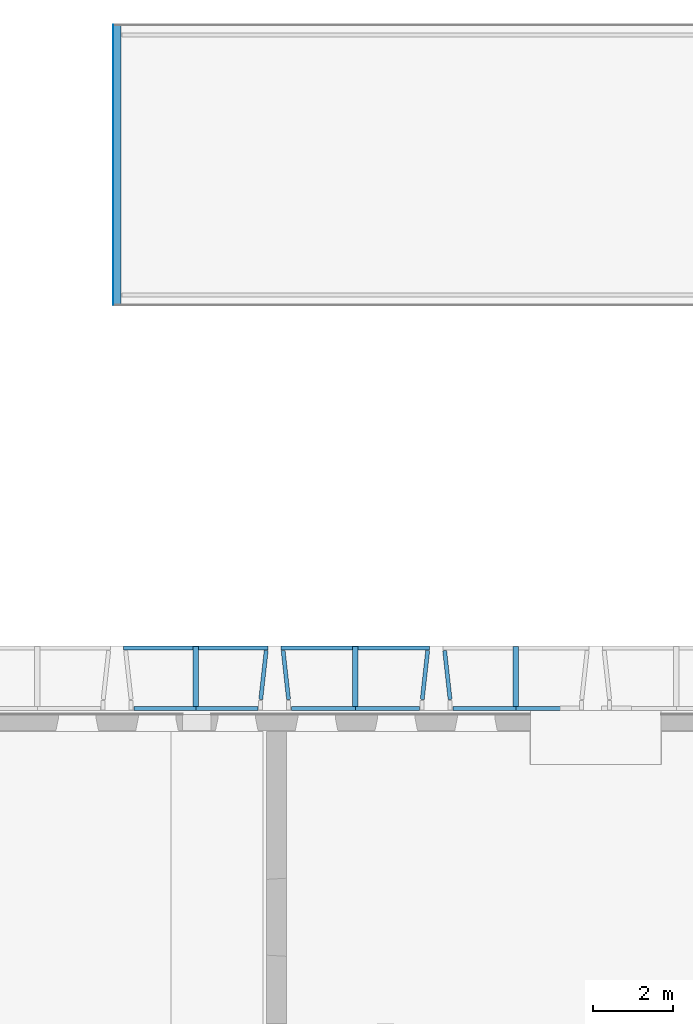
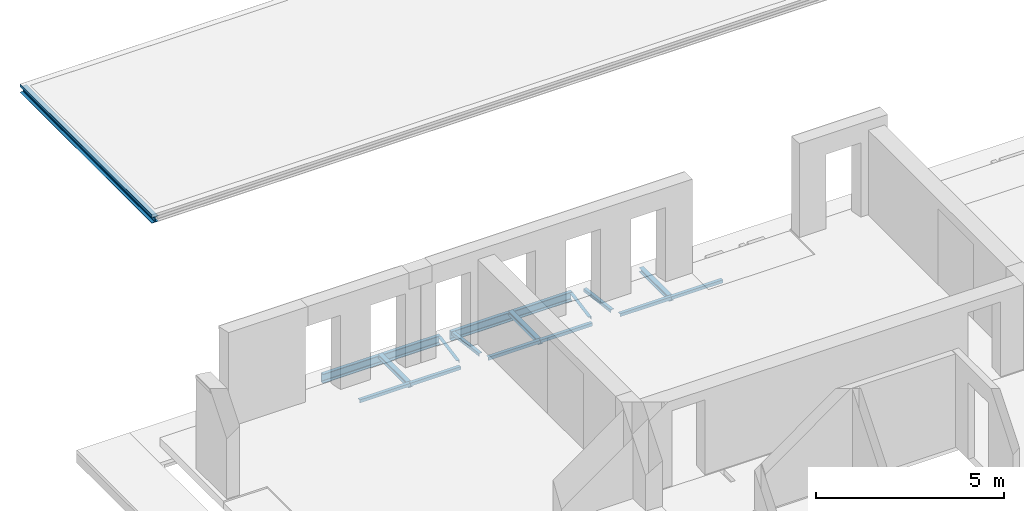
# One storey, part 8 of 27: 17 beams.
"""IFC2X3 building model written with IfcOpenShell, lengths in millimetres."""

import ifcopenshell
import ifcopenshell.guid

model = None  # the IFC model being written
_history = None  # IfcOwnerHistory: only IFC2X3 demands one
_inside = {}  # id of a spatial element -> (the spatial element, [elements in it])
_under = {}  # id of a project, library or spatial element -> (it, [spatial elements below it])
_declared = {}  # id of a project -> (the project, [libraries it declares])
_typed = {}  # id of a type object -> (the type object, [elements of that type])
_made_of = {}  # id of a material, layer set ... -> (it, [elements and type objects made of it])


def new_model(schema):
    """Start an empty IFC model of exactly this schema.

    Asked for "IFC4X3", IfcOpenShell would pick the latest addendum, in which some entities
    have other attributes; the version numbers below select the first issue.
    IFC2X3 requires an IfcOwnerHistory on every rooted entity: one is made here for all.
    """
    global model, _history
    if schema == "IFC4X3":
        model = ifcopenshell.file(schema_version=(4, 3, 0, 0))
    else:
        model = ifcopenshell.file(schema=schema)
    _inside.clear()
    _under.clear()
    _declared.clear()
    _typed.clear()
    _made_of.clear()
    _history = None
    if model.schema == "IFC2X3":
        org = make("IfcOrganization", Name="unknown")
        user = make(
            "IfcPersonAndOrganization",
            ThePerson=make("IfcPerson", FamilyName="unknown"),
            TheOrganization=org,
        )
        app = make(
            "IfcApplication",
            ApplicationDeveloper=org,
            Version="unknown",
            ApplicationFullName="unknown",
            ApplicationIdentifier="unknown",
        )
        _history = make(
            "IfcOwnerHistory",
            OwningUser=user,
            OwningApplication=app,
            ChangeAction="ADDED",
            CreationDate=0,
        )
    return model


def make(cls, **values):
    """One entity of the class cls with the attributes given. An attribute that is None is left unset."""
    return model.create_entity(
        cls, **{name: value for name, value in values.items() if value is not None}
    )


def entity(cls, *values):
    """Any entity or typed value of the class cls, its attributes in the order of the schema. None: left unset."""
    e = model.create_entity(cls)
    for i, value in enumerate(values):
        if value is not None:
            e[i] = value
    return e


def rooted(cls, **values):
    """An entity with a GlobalId (a new one), such as an element, a storey or a relation."""
    return make(cls, GlobalId=ifcopenshell.guid.new(), OwnerHistory=_history, **values)


def si_unit(unit_type, name, prefix=None):
    """IfcSIUnit, for example si_unit("LENGTHUNIT", "METRE", prefix="MILLI")."""
    return make("IfcSIUnit", UnitType=unit_type, Prefix=prefix, Name=name)


def converted_unit(unit_type, name, factor, base, dimensions=None, offset=None):
    """IfcConversionBasedUnit, such as the inch: factor (a typed value) times the base unit."""
    return make(
        "IfcConversionBasedUnit"
        if offset is None
        else "IfcConversionBasedUnitWithOffset",
        ConversionOffset=offset,
        Dimensions=None
        if dimensions is None
        else entity("IfcDimensionalExponents", *dimensions),
        UnitType=unit_type,
        Name=name,
        ConversionFactor=make(
            "IfcMeasureWithUnit", ValueComponent=factor, UnitComponent=base
        ),
    )


def derived_unit(unit_type, elements):
    """IfcDerivedUnit: a product of units, each with its exponent."""
    return make(
        "IfcDerivedUnit",
        Elements=[
            make("IfcDerivedUnitElement", Unit=unit, Exponent=power)
            for unit, power in elements
        ],
        UnitType=unit_type,
    )


def assignment(units):
    """IfcUnitAssignment: the units of a project."""
    return None if units is None else make("IfcUnitAssignment", Units=units)


def point(xyz):
    """IfcCartesianPoint."""
    return None if xyz is None else make("IfcCartesianPoint", Coordinates=xyz)


def direction(xyz):
    """IfcDirection."""
    return None if xyz is None else make("IfcDirection", DirectionRatios=xyz)


def frame(location, z_axis=None, x_axis=None):
    """IfcAxis2Placement3D, a coordinate frame: its origin and axes. An axis left out is left unset."""
    return make(
        "IfcAxis2Placement3D",
        Location=point(location),
        Axis=direction(z_axis),
        RefDirection=direction(x_axis),
    )


def frame_2d(location, x_axis=None):
    """IfcAxis2Placement2D, a coordinate frame in the plane: its origin and x axis."""
    return make(
        "IfcAxis2Placement2D", Location=point(location), RefDirection=direction(x_axis)
    )


def origin():
    """The frame at (0, 0, 0) with its axes left unset."""
    return frame((0.0, 0.0, 0.0))


def place(relative_to, where):
    """IfcLocalPlacement: puts the frame where relative to a parent placement (None: the world)."""
    return make(
        "IfcLocalPlacement", PlacementRelTo=relative_to, RelativePlacement=where
    )


def context(
    kind, dimensions, precision=None, world=None, true_north=None, identifier=None
):
    """IfcGeometricRepresentationContext, for example the 3D "Model" context."""
    return make(
        "IfcGeometricRepresentationContext",
        ContextIdentifier=identifier,
        ContextType=kind,
        CoordinateSpaceDimension=dimensions,
        Precision=precision,
        WorldCoordinateSystem=world,
        TrueNorth=true_north,
    )


def subcontext(parent, identifier, kind, view, scale=None):
    """IfcGeometricRepresentationSubContext, for example "Body" below "Model"."""
    return make(
        "IfcGeometricRepresentationSubContext",
        ContextIdentifier=identifier,
        ContextType=kind,
        ParentContext=parent,
        TargetScale=scale,
        TargetView=view,
    )


def project(units=None, contexts=None):
    """IfcProject with its units and contexts."""
    return rooted(
        "IfcProject",
        Name="project",
        RepresentationContexts=contexts,
        UnitsInContext=assignment(units),
    )


def spatial(cls, under=None, at=None, **own):
    """A site, building, storey or space (cls), placed at a placement, below another one or the project."""
    s = rooted(cls, ObjectPlacement=at, **own)
    if under is not None:
        _under.setdefault(under.id(), (under, []))[1].append(s)
    return s


def polyline(points):
    """IfcPolyline through the points."""
    return make("IfcPolyline", Points=[point(p) for p in points])


def circle_curve(where, radius):
    """IfcCircle in the frame where."""
    return make("IfcCircle", Position=where, Radius=radius)


def parameter(value):
    """IfcParameterValue: where a trimmed curve begins or ends, as a parameter of its basis curve."""
    return model.create_entity("IfcParameterValue", value)


def trimmed(basis, trim1, trim2, sense, master):
    """IfcTrimmedCurve: the piece of a basis curve between two trims."""
    return make(
        "IfcTrimmedCurve",
        BasisCurve=basis,
        Trim1=trim1,
        Trim2=trim2,
        SenseAgreement=sense,
        MasterRepresentation=master,
    )


def segment(curve, same_sense, transition):
    """IfcCompositeCurveSegment."""
    return make(
        "IfcCompositeCurveSegment",
        Transition=transition,
        SameSense=same_sense,
        ParentCurve=curve,
    )


def composite_curve(segments, self_intersect=None):
    """IfcCompositeCurve: segments joined end to end."""
    return make("IfcCompositeCurve", Segments=segments, SelfIntersect=self_intersect)


def profile(cls, at=None, kind="AREA", **sizes):
    """A parametric profile (cls). Its sizes go by their IFC names, for example OverallWidth=200.0."""
    return make(cls, ProfileType=kind, Position=at, **sizes)


def rectangle(**sizes):
    """IfcRectangleProfileDef."""
    return profile("IfcRectangleProfileDef", **sizes)


def i_section(**sizes):
    """IfcIShapeProfileDef."""
    return profile("IfcIShapeProfileDef", **sizes)


def outline(outer, holes=None, kind="AREA"):
    """IfcArbitraryClosedProfileDef: a profile drawn as a closed curve; with holes, ...WithVoids."""
    if holes is None:
        return make("IfcArbitraryClosedProfileDef", ProfileType=kind, OuterCurve=outer)
    return make(
        "IfcArbitraryProfileDefWithVoids",
        ProfileType=kind,
        OuterCurve=outer,
        InnerCurves=holes,
    )


def extrude(swept, where, along, depth):
    """IfcExtrudedAreaSolid: the profile swept, set in the frame where, extruded along a direction by depth."""
    return make(
        "IfcExtrudedAreaSolid",
        SweptArea=swept,
        Position=where,
        ExtrudedDirection=direction(along),
        Depth=depth,
    )


def shape(context_of_items, identifier, shape_type, items):
    """IfcShapeRepresentation: the items that make up one representation, for example the "Body"."""
    return make(
        "IfcShapeRepresentation",
        ContextOfItems=context_of_items,
        RepresentationIdentifier=identifier,
        RepresentationType=shape_type,
        Items=items,
    )


def source(mapping_origin, context_of_items, identifier, shape_type, items):
    """IfcRepresentationMap: a shape defined once, which mapped items show again and again."""
    return make(
        "IfcRepresentationMap",
        MappingOrigin=mapping_origin,
        MappedRepresentation=shape(context_of_items, identifier, shape_type, items),
    )


def transform(
    local_origin,
    x_axis=None,
    y_axis=None,
    z_axis=None,
    scale=None,
    scale2=None,
    scale3=None,
    uniform=True,
):
    """IfcCartesianTransformationOperator3D, or its non-uniform kind. x_axis, y_axis, z_axis: its Axis1, 2, 3."""
    if uniform:
        return make(
            "IfcCartesianTransformationOperator3D",
            Axis1=direction(x_axis),
            Axis2=direction(y_axis),
            LocalOrigin=point(local_origin),
            Scale=scale,
            Axis3=direction(z_axis),
        )
    return make(
        "IfcCartesianTransformationOperator3DnonUniform",
        Axis1=direction(x_axis),
        Axis2=direction(y_axis),
        LocalOrigin=point(local_origin),
        Scale=scale,
        Axis3=direction(z_axis),
        Scale2=scale2,
        Scale3=scale3,
    )


def mapped(mapping_source, mapping_target):
    """IfcMappedItem: shows the shape of a source again, moved by a transform."""
    return make(
        "IfcMappedItem", MappingSource=mapping_source, MappingTarget=mapping_target
    )


def material(Name=None, Category=None):
    """IfcMaterial."""
    return make("IfcMaterial", Name=Name, Category=Category)


def made_of(thing, what):
    """Note that an element or type object is made of a material, layer set ...; save() writes the relation."""
    if what is not None:
        _made_of.setdefault(what.id(), (what, []))[1].append(thing)
    return thing


def type_object(cls, material=None, **own):
    """A type object (cls), such as IfcWallType, which elements share."""
    return made_of(rooted(cls, **own), material)


def type_shapes(of_type, sources):
    """Give a type object the sources (RepresentationMaps) that its elements show as mapped items."""
    of_type.RepresentationMaps = sources


def element(
    cls,
    number,
    at=None,
    inside=None,
    cuts=None,
    type_object=None,
    material=None,
    context=None,
    identifier="Body",
    shape_type=None,
    held_by="IfcProductDefinitionShape",
    body=None,
    shapes=None,
    **own,
):
    """One element of the class cls, such as IfcWall. Its Tag is "e" and its number.

    at: its placement. inside: the storey or other place that contains it. cuts: it is an
    opening in that element (IfcRelVoidsElement). A single representation is given by context,
    identifier, shape_type and body (its items); several are given by shapes. held_by: the class
    of the entity that holds the representations. save() writes the other relations.
    """
    e = rooted(cls, Tag="e%d" % number, ObjectPlacement=at, **own)
    if body is not None:
        shapes = [shape(context, identifier, shape_type, body)]
    if shapes is not None:
        e.Representation = make(held_by, Representations=shapes)
    if inside is not None:
        _inside.setdefault(inside.id(), (inside, []))[1].append(e)
    if cuts is not None:
        rooted(
            "IfcRelVoidsElement", RelatingBuildingElement=cuts, RelatedOpeningElement=e
        )
    if type_object is not None:
        _typed.setdefault(type_object.id(), (type_object, []))[1].append(e)
    return made_of(e, material)


def aggregate(whole, parts):
    """IfcRelAggregates: a whole, such as a stair, and the parts it consists of."""
    return rooted("IfcRelAggregates", RelatingObject=whole, RelatedObjects=parts)


def save(model, path):
    """Write the relations noted so far, then the file.

    IfcRelAggregates (storeys below a building ...), IfcRelContainedInSpatialStructure (elements
    in a storey), IfcRelDefinesByType, IfcRelAssociatesMaterial and IfcRelDeclares: one each for
    every whole, place, type object, material and project.
    """
    for whole, parts in _under.values():
        aggregate(whole, parts)
    for where, things in _inside.values():
        rooted(
            "IfcRelContainedInSpatialStructure",
            RelatedElements=things,
            RelatingStructure=where,
        )
    for kind, things in _typed.values():
        rooted("IfcRelDefinesByType", RelatedObjects=things, RelatingType=kind)
    for what, things in _made_of.values():
        rooted("IfcRelAssociatesMaterial", RelatedObjects=things, RelatingMaterial=what)
    for by, libraries in _declared.values():
        rooted("IfcRelDeclares", RelatingContext=by, RelatedDefinitions=libraries)
    model.write(path)


model = new_model("IFC2X3")

# Units and contexts
model_context = context("Model", 3, precision=0.01, world=origin(), true_north=direction((6.12303176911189e-17, 1.0)))
body_context = subcontext(model_context, "Body", "Model", "MODEL_VIEW")
ifc_project = project(units=[si_unit("LENGTHUNIT", "METRE", prefix="MILLI"), si_unit("AREAUNIT", "SQUARE_METRE"), si_unit("VOLUMEUNIT", "CUBIC_METRE"), converted_unit("PLANEANGLEUNIT", "DEGREE", entity("IfcRatioMeasure", 0.0174532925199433), si_unit("PLANEANGLEUNIT", "RADIAN"), dimensions=[0, 0, 0, 0, 0, 0, 0]), si_unit("MASSUNIT", "GRAM", prefix="KILO"), derived_unit("MASSDENSITYUNIT", [(si_unit("MASSUNIT", "GRAM", prefix="KILO"), 1), (si_unit("LENGTHUNIT", "METRE"), -3)]), si_unit("TIMEUNIT", "SECOND"), si_unit("FREQUENCYUNIT", "HERTZ"), si_unit("THERMODYNAMICTEMPERATUREUNIT", "DEGREE_CELSIUS"), derived_unit("THERMALTRANSMITTANCEUNIT", [(si_unit("MASSUNIT", "GRAM", prefix="KILO"), 1), (si_unit("THERMODYNAMICTEMPERATUREUNIT", "KELVIN"), -1), (si_unit("TIMEUNIT", "SECOND"), -3)]), derived_unit("VOLUMETRICFLOWRATEUNIT", [(si_unit("LENGTHUNIT", "METRE"), 3), (si_unit("TIMEUNIT", "SECOND"), -1)]), si_unit("ELECTRICCURRENTUNIT", "AMPERE"), si_unit("ELECTRICVOLTAGEUNIT", "VOLT"), si_unit("POWERUNIT", "WATT"), si_unit("FORCEUNIT", "NEWTON", prefix="KILO"), si_unit("ILLUMINANCEUNIT", "LUX"), si_unit("LUMINOUSFLUXUNIT", "LUMEN"), si_unit("LUMINOUSINTENSITYUNIT", "CANDELA"), derived_unit("USERDEFINED", [(si_unit("MASSUNIT", "GRAM", prefix="KILO"), -1), (si_unit("LENGTHUNIT", "METRE"), -2), (si_unit("TIMEUNIT", "SECOND"), 3), (si_unit("LUMINOUSFLUXUNIT", "LUMEN"), 1)]), derived_unit("LINEARVELOCITYUNIT", [(si_unit("LENGTHUNIT", "METRE"), 1), (si_unit("TIMEUNIT", "SECOND"), -1)]), si_unit("PRESSUREUNIT", "PASCAL"), derived_unit("USERDEFINED", [(si_unit("LENGTHUNIT", "METRE"), -2), (si_unit("MASSUNIT", "GRAM", prefix="KILO"), 1), (si_unit("TIMEUNIT", "SECOND"), -2)])], contexts=[model_context])

# Site, building, storey
site_placement = place(None, origin())
site = spatial("IfcSite", under=ifc_project, at=site_placement, Name="Default", CompositionType="ELEMENT")
building_placement = place(site_placement, origin())
building = spatial("IfcBuilding", under=site, at=building_placement, Name="niet gebruiken", CompositionType="ELEMENT")
storey_placement = place(building_placement, frame((0.0, 0.0, 18000.0)))
storey = spatial("IfcBuildingStorey", under=building, at=storey_placement, Name="05 vijfde verdieping", CompositionType="ELEMENT", Elevation=18000.0)

# Beams
ifc_material = material(Name="NLRS_h2_staal")
beam_type_1 = type_object("IfcBeamType", Name="NLRS_28.11_SF_WPB_stalen ligger HEA_gen:ligger HEA 200", PredefinedType="BEAM")
beam_1_placement = place(storey_placement, frame((131750.0, 50425.0, -1165.0), z_axis=(0.0, 0.0, 1.0), x_axis=(0.0, -1.0, 0.0)))
element("IfcBeam", 1, at=beam_1_placement, inside=storey, type_object=beam_type_1, material=ifc_material, Name="NLRS_28.11_SF_WPB_stalen ligger HEA_gen:ligger HEA 200", ObjectType="NLRS_28.11_SF_WPB_stalen ligger HEA_gen:ligger HEA 200", context=body_context, shape_type="SweptSolid", body=[
    extrude(i_section(OverallWidth=199.999999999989, OverallDepth=190.0, WebThickness=6.50000000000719, FlangeThickness=9.99999999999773, FilletRadius=17.9999999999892, at=frame_2d((-6.49436060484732e-12, 1.73301373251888e-11), x_axis=(0.0, 1.0))), frame((0.0, 0.0, 0.0), z_axis=(1.0, 0.0, 0.0), x_axis=(0.0, 0.0, -1.0)), (0.0, 0.0, 1.0), 7024.99999999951),
])
beam_type_2 = type_object("IfcBeamType", Name="NLRS_28.11_SF_WPB_stalen ligger HEA_gen:ligger HEA 140", PredefinedType="BEAM")
beam_2_placement = place(storey_placement, frame((133725.0, 34840.0, -1015.0), z_axis=(0.0, 0.0, 1.0), x_axis=(0.0, -1.0, 0.0)))
element("IfcBeam", 2, at=beam_2_placement, inside=storey, type_object=beam_type_2, material=ifc_material, Name="NLRS_28.11_SF_WPB_stalen ligger HEA_gen:ligger HEA 140", ObjectType="NLRS_28.11_SF_WPB_stalen ligger HEA_gen:ligger HEA 140", context=body_context, shape_type="SweptSolid", body=[
    extrude(i_section(OverallWidth=140.000000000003, OverallDepth=133.0, WebThickness=5.49999999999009, FlangeThickness=8.49999999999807, FilletRadius=11.9999999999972, at=frame_2d((-4.33431068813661e-12, 0.0), x_axis=(0.0, 1.0))), frame((0.0, 0.0, -66.5000000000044), z_axis=(1.0, 0.0, 0.0), x_axis=(0.0, 0.0, -1.0)), (0.0, 0.0, 1.0), 1610.0),
])
for number, where, z_axis, x_axis, name in (
    (3, (137725.0, 34840.0, -1015.0), (0.0, 0.0, 1.0), (0.0, -1.0, 0.0), "NLRS_28.11_SF_WPB_stalen ligger HEA_gen:ligger HEA 140"),
    (4, (141750.0, 34840.0, -1015.0), (0.0, 0.0, 1.0), (0.0, -1.0, 0.0), "NLRS_28.11_SF_WPB_stalen ligger HEA_gen:ligger HEA 140"),
):
    element("IfcBeam", number, at=place(storey_placement, frame(where, z_axis=z_axis, x_axis=x_axis)), inside=storey, type_object=beam_type_2, material=ifc_material, Name=name, ObjectType="NLRS_28.11_SF_WPB_stalen ligger HEA_gen:ligger HEA 140", context=body_context, shape_type="SweptSolid", body=[
        extrude(i_section(OverallWidth=140.000000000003, OverallDepth=133.0, WebThickness=5.49999999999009, FlangeThickness=8.49999999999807, FilletRadius=11.9999999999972, at=frame_2d((-4.33431068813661e-12, -1.73301373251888e-11), x_axis=(0.0, 1.0))), frame((0.0, 0.0, -66.5000000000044), z_axis=(1.0, 0.0, 0.0), x_axis=(0.0, 0.0, -1.0)), (0.0, 0.0, 1.0), 1610.0),
    ])
beam_type_3 = type_object("IfcBeamType", Name="ligger stripstaal RECT_85x5", PredefinedType="BEAM", material=ifc_material)
shared_shape = source(origin(), body_context, "Body", "SweptSolid", [
    extrude(rectangle(XDim=7020.00000000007, YDim=4.99999999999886, at=frame_2d((-4.32009983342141e-12, 1.73259184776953e-11), x_axis=(1.0, 0.0))), frame((131652.5, 46915.0, 16930.0), z_axis=(0.0, 0.0, 1.0), x_axis=(0.0, 1.0, 0.0)), (0.0, 0.0, 1.0), 85.0000000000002),
    extrude(rectangle(XDim=7020.00000000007, YDim=4.99999999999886, at=frame_2d((-4.32009983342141e-12, 1.73259184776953e-11), x_axis=(1.0, 0.0))), frame((131652.5, 46915.0, 16930.0), z_axis=(0.0, 0.0, 1.0), x_axis=(0.0, 1.0, 0.0)), (0.0, 0.0, 1.0), 85.0000000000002),
])
type_shapes(beam_type_3, [shared_shape])
beam_3_placement = place(storey_placement, frame((0.0, 0.0, -18000.0)))
element("IfcBeam", 5, at=beam_3_placement, inside=storey, type_object=beam_type_3, material=ifc_material, Name="NLRS_28.11_SF_WPB_stalen ligger stripstaal_gen:ligger stripstaal RECT_85x5", ObjectType="ligger stripstaal RECT_85x5", context=body_context, shape_type="MappedRepresentation", body=[
    mapped(shared_shape, transform((0.0, 0.0, 0.0), scale=1.0)),
])
beam_type_4 = type_object("IfcBeamType", Name="NLRS_28.11_SF_WPB_stalen ligger UNP_gen:ligger UNP 300", PredefinedType="BEAM")
beam_4_placement = place(storey_placement, frame((131915.0, 34823.0, -1015.0)))
element("IfcBeam", 6, at=beam_4_placement, inside=storey, type_object=beam_type_4, material=ifc_material, Name="NLRS_28.11_SF_WPB_stalen ligger UNP_gen:ligger UNP 300", ObjectType="NLRS_28.11_SF_WPB_stalen ligger UNP_gen:ligger UNP 300", context=body_context, shape_type="SweptSolid", body=[
    extrude(outline(composite_curve([segment(polyline([(-149.93760274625, -45.3333333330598), (-142.655201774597, -45.3333333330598)]), True, "CONTINUOUS"), segment(trimmed(circle_curve(frame_2d((-142.655201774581, -37.3333333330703), x_axis=(0.0, -1.0)), 7.99999999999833), [parameter(0.0)], [parameter(90.0000000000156)], True, "PARAMETER"), True, "CONTINUOUS"), segment(polyline([(-134.655201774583, -37.3333333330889), (-130.390412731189, 28.6666666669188)]), True, "CONTINUOUS"), segment(trimmed(circle_curve(frame_2d((-114.390412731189, 28.6666666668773), x_axis=(-1.0, 0.0)), 16.0000000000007), [parameter(270.0)], [parameter(0.0)], True, "PARAMETER"), False, "CONTINUOUS"), segment(polyline([(-114.390412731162, 44.666666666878), (113.875860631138, 44.6666666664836)]), True, "CONTINUOUS"), segment(trimmed(circle_curve(frame_2d((113.875860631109, 28.6666666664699), x_axis=(0.0, 1.0)), 16.0000000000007), [parameter(270.0)], [parameter(0.0)], True, "PARAMETER"), False, "CONTINUOUS"), segment(polyline([(129.875860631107, 28.6666666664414), (135.044959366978, -37.3333333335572)]), True, "CONTINUOUS"), segment(trimmed(circle_curve(frame_2d((143.044959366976, -37.3333333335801), x_axis=(-1.0, 0.0)), 7.99999999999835), [parameter(0.0)], [parameter(90.0000000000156)], True, "PARAMETER"), True, "CONTINUOUS"), segment(polyline([(143.044959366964, -45.3333333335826), (150.062397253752, -45.3333333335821)]), True, "CONTINUOUS"), segment(polyline([(150.062397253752, -45.3333333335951), (150.06239725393, 54.6666666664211)]), True, "CONTINUOUS"), segment(polyline([(150.06239725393, 54.6666666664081), (-149.937602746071, 54.6666666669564)]), True, "CONTINUOUS"), segment(polyline([(-149.937602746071, 54.6666666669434), (-149.93760274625, -45.3333333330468)]), True, "CONTINUOUS")], self_intersect=False)), frame((0.0, -27.6666666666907, -149.937602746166), z_axis=(1.0, 0.0, 0.0), x_axis=(0.0, 0.0, -1.0)), (0.0, 0.0, 1.0), 3620.00000000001),
])
beam_5_placement = place(storey_placement, frame((135865.0, 34823.0, -1015.0)))
element("IfcBeam", 7, at=beam_5_placement, inside=storey, type_object=beam_type_4, material=ifc_material, Name="NLRS_28.11_SF_WPB_stalen ligger UNP_gen:ligger UNP 300", ObjectType="NLRS_28.11_SF_WPB_stalen ligger UNP_gen:ligger UNP 300", context=body_context, shape_type="SweptSolid", body=[
    extrude(outline(composite_curve([segment(polyline([(-149.937602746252, -45.3333333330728), (-142.655201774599, -45.3333333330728)]), True, "CONTINUOUS"), segment(trimmed(circle_curve(frame_2d((-142.655201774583, -37.3333333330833), x_axis=(0.0, -1.0)), 7.99999999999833), [parameter(0.0)], [parameter(90.0000000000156)], True, "PARAMETER"), True, "CONTINUOUS"), segment(polyline([(-134.655201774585, -37.3333333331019), (-130.390412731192, 28.6666666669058)]), True, "CONTINUOUS"), segment(trimmed(circle_curve(frame_2d((-114.390412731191, 28.6666666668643), x_axis=(-1.0, 0.0)), 16.0000000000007), [parameter(270.0)], [parameter(0.0)], True, "PARAMETER"), False, "CONTINUOUS"), segment(polyline([(-114.390412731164, 44.666666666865), (113.875860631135, 44.6666666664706)]), True, "CONTINUOUS"), segment(trimmed(circle_curve(frame_2d((113.875860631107, 28.666666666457), x_axis=(0.0, 1.0)), 16.0000000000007), [parameter(270.0)], [parameter(0.0)], True, "PARAMETER"), False, "CONTINUOUS"), segment(polyline([(129.875860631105, 28.6666666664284), (135.044959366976, -37.3333333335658)]), True, "CONTINUOUS"), segment(trimmed(circle_curve(frame_2d((143.044959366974, -37.3333333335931), x_axis=(-1.0, 0.0)), 7.99999999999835), [parameter(0.0)], [parameter(90.0000000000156)], True, "PARAMETER"), True, "CONTINUOUS"), segment(polyline([(143.044959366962, -45.3333333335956), (150.062397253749, -45.3333333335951)]), True, "CONTINUOUS"), segment(polyline([(150.062397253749, -45.3333333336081), (150.062397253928, 54.6666666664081)]), True, "CONTINUOUS"), segment(polyline([(150.062397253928, 54.6666666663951), (-149.937602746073, 54.6666666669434)]), True, "CONTINUOUS"), segment(polyline([(-149.937602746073, 54.6666666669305), (-149.937602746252, -45.3333333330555)]), True, "CONTINUOUS")], self_intersect=False)), frame((0.0, -27.6666666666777, -149.937602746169), z_axis=(1.0, 0.0, 0.0), x_axis=(0.0, 0.0, -1.0)), (0.0, 0.0, 1.0), 3720.0),
])
beam_type_5 = type_object("IfcBeamType", Name="NLRS_28.11_SF_WPB_stalen ligger hoekprofiel gelijkzijdig_gen:ligger gelijzijdig hoekprofiel LEQU_100x100x10", PredefinedType="BEAM")
beam_6_placement = place(storey_placement, frame((132170.0, 33330.0, -1015.0)))
element("IfcBeam", 8, at=beam_6_placement, inside=storey, type_object=beam_type_5, material=ifc_material, Name="NLRS_28.11_SF_WPB_stalen ligger hoekprofiel gelijkzijdig_gen:ligger gelijzijdig hoekprofiel LEQU_100x100x10", ObjectType="NLRS_28.11_SF_WPB_stalen ligger hoekprofiel gelijkzijdig_gen:ligger gelijzijdig hoekprofiel LEQU_100x100x10", context=body_context, shape_type="SweptSolid", body=[
    extrude(outline(composite_curve([segment(polyline([(-37.7777777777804, -37.7777777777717), (62.2222222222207, -37.7777777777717)]), True, "CONTINUOUS"), segment(polyline([(62.2222222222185, -37.7777777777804), (62.2222222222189, -33.7777777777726)]), True, "CONTINUOUS"), segment(trimmed(circle_curve(frame_2d((56.2222222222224, -33.7777777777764), x_axis=(1.0, 0.0)), 5.99999999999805), [parameter(0.0)], [parameter(90.0000000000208)], True, "PARAMETER"), True, "CONTINUOUS"), segment(polyline([(56.2222222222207, -27.7777777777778), (-15.777777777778, -27.7777777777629)]), True, "CONTINUOUS"), segment(trimmed(circle_curve(frame_2d((-15.7777777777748, -15.7777777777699), x_axis=(0.0, -1.0)), 12.0000000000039), [parameter(270.000000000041)], [parameter(0.0)], True, "PARAMETER"), False, "CONTINUOUS"), segment(polyline([(-27.7777777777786, -15.7777777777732), (-27.7777777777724, 56.2222222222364)]), True, "CONTINUOUS"), segment(trimmed(circle_curve(frame_2d((-33.777777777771, 56.2222222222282), x_axis=(1.0, 0.0)), 5.99999999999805), [parameter(0.0)], [parameter(90.0000000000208)], True, "PARAMETER"), True, "CONTINUOUS"), segment(polyline([(-33.7777777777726, 62.2222222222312), (-37.7777777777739, 62.2222222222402)]), True, "CONTINUOUS"), segment(polyline([(-37.7777777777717, 62.2222222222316), (-37.7777777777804, -37.7777777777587)]), True, "CONTINUOUS")], self_intersect=False)), frame((0.0, -62.222222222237, -37.7777777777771), z_axis=(1.0, 0.0, 0.0), x_axis=(0.0, 0.0, -1.0)), (0.0, 0.0, 1.0), 1554.9999993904),
])
beam_7_placement = place(storey_placement, frame((135437.912001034, 34746.7465231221, -1015.0), z_axis=(0.0, 0.0, 1.0), x_axis=(-0.110431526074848, -0.993883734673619, 0.0)))
element("IfcBeam", 9, at=beam_7_placement, inside=storey, type_object=beam_type_5, material=ifc_material, Name="NLRS_28.11_SF_WPB_stalen ligger hoekprofiel gelijkzijdig_gen:ligger gelijzijdig hoekprofiel LEQU_100x100x10", ObjectType="NLRS_28.11_SF_WPB_stalen ligger hoekprofiel gelijkzijdig_gen:ligger gelijzijdig hoekprofiel LEQU_100x100x10", context=body_context, shape_type="SweptSolid", body=[
    extrude(outline(composite_curve([segment(polyline([(-37.7777777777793, -62.222222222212), (-33.777777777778, -62.222222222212)]), True, "CONTINUOUS"), segment(trimmed(circle_curve(frame_2d((-33.7777777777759, -56.2222222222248), x_axis=(0.0, -1.0)), 5.99999999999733), [parameter(0.0)], [parameter(90.0000000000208)], True, "PARAMETER"), True, "CONTINUOUS"), segment(polyline([(-27.7777777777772, -56.2222222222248), (-27.7777777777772, 15.7777777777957)]), True, "CONTINUOUS"), segment(trimmed(circle_curve(frame_2d((-15.7777777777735, 15.7777777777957), x_axis=(-1.0, 0.0)), 12.000000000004), [parameter(270.000000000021)], [parameter(0.0)], True, "PARAMETER"), False, "CONTINUOUS"), segment(polyline([(-15.7777777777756, 27.7777777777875), (56.2222222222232, 27.7777777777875)]), True, "CONTINUOUS"), segment(trimmed(circle_curve(frame_2d((56.2222222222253, 33.7777777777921), x_axis=(0.0, -1.0)), 5.99999999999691), [parameter(0.0)], [parameter(90.0000000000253)], True, "PARAMETER"), True, "CONTINUOUS"), segment(polyline([(62.2222222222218, 33.7777777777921), (62.2222222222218, 37.7777777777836)]), True, "CONTINUOUS"), segment(polyline([(62.222222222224, 37.7777777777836), (-37.7777777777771, 37.7777777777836)]), True, "CONTINUOUS"), segment(polyline([(-37.7777777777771, 37.7777777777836), (-37.7777777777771, -62.222222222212)]), True, "CONTINUOUS")], self_intersect=False)), frame((0.0, 62.2222222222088, -37.7777777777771), z_axis=(1.0, 0.0, 0.0), x_axis=(0.0, 0.0, -1.0)), (0.0, 0.0, 1.0), 1235.00000000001),
])
beam_8_placement = place(storey_placement, frame((136120.0, 33330.0, -1015.0)))
element("IfcBeam", 10, at=beam_8_placement, inside=storey, type_object=beam_type_5, material=ifc_material, Name="NLRS_28.11_SF_WPB_stalen ligger hoekprofiel gelijkzijdig_gen:ligger gelijzijdig hoekprofiel LEQU_100x100x10", ObjectType="NLRS_28.11_SF_WPB_stalen ligger hoekprofiel gelijkzijdig_gen:ligger gelijzijdig hoekprofiel LEQU_100x100x10", context=body_context, shape_type="SweptSolid", body=[
    extrude(outline(composite_curve([segment(polyline([(-37.7777777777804, -37.777777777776), (62.2222222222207, -37.777777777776)]), True, "CONTINUOUS"), segment(polyline([(62.2222222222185, -37.7777777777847), (62.2222222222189, -33.7777777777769)]), True, "CONTINUOUS"), segment(trimmed(circle_curve(frame_2d((56.2222222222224, -33.7777777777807), x_axis=(1.0, 0.0)), 5.99999999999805), [parameter(0.0)], [parameter(90.0000000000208)], True, "PARAMETER"), True, "CONTINUOUS"), segment(polyline([(56.2222222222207, -27.7777777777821), (-15.777777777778, -27.7777777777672)]), True, "CONTINUOUS"), segment(trimmed(circle_curve(frame_2d((-15.7777777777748, -15.7777777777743), x_axis=(0.0, -1.0)), 12.0000000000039), [parameter(270.000000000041)], [parameter(0.0)], True, "PARAMETER"), False, "CONTINUOUS"), segment(polyline([(-27.7777777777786, -15.7777777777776), (-27.7777777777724, 56.2222222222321)]), True, "CONTINUOUS"), segment(trimmed(circle_curve(frame_2d((-33.777777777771, 56.2222222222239), x_axis=(1.0, 0.0)), 5.99999999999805), [parameter(0.0)], [parameter(90.0000000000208)], True, "PARAMETER"), True, "CONTINUOUS"), segment(polyline([(-33.7777777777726, 62.2222222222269), (-37.7777777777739, 62.2222222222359)]), True, "CONTINUOUS"), segment(polyline([(-37.7777777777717, 62.2222222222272), (-37.7777777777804, -37.777777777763)]), True, "CONTINUOUS")], self_intersect=False)), frame((0.0, -62.2222222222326, -37.7777777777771), z_axis=(1.0, 0.0, 0.0), x_axis=(0.0, 0.0, -1.0)), (0.0, 0.0, 1.0), 1604.99999939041),
])
beam_9_placement = place(storey_placement, frame((135962.087998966, 34746.7465231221, -1015.0), z_axis=(0.0, 0.0, 1.0), x_axis=(0.110431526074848, -0.993883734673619, 0.0)))
element("IfcBeam", 11, at=beam_9_placement, inside=storey, type_object=beam_type_5, material=ifc_material, Name="NLRS_28.11_SF_WPB_stalen ligger hoekprofiel gelijkzijdig_gen:ligger gelijzijdig hoekprofiel LEQU_100x100x10", ObjectType="NLRS_28.11_SF_WPB_stalen ligger hoekprofiel gelijkzijdig_gen:ligger gelijzijdig hoekprofiel LEQU_100x100x10", context=body_context, shape_type="SweptSolid", body=[
    extrude(outline(composite_curve([segment(polyline([(-37.7777777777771, -37.7777777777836), (62.222222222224, -37.7777777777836)]), True, "CONTINUOUS"), segment(polyline([(62.2222222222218, -37.7777777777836), (62.2222222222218, -33.7777777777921)]), True, "CONTINUOUS"), segment(trimmed(circle_curve(frame_2d((56.2222222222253, -33.7777777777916), x_axis=(1.0, 0.0)), 5.99999999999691), [parameter(0.0)], [parameter(90.0000000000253)], True, "PARAMETER"), True, "CONTINUOUS"), segment(polyline([(56.2222222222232, -27.7777777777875), (-15.7777777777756, -27.7777777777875)]), True, "CONTINUOUS"), segment(trimmed(circle_curve(frame_2d((-15.7777777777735, -15.7777777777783), x_axis=(0.0, -1.0)), 12.000000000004), [parameter(270.000000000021)], [parameter(0.0)], True, "PARAMETER"), False, "CONTINUOUS"), segment(polyline([(-27.7777777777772, -15.7777777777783), (-27.7777777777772, 56.2222222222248)]), True, "CONTINUOUS"), segment(trimmed(circle_curve(frame_2d((-33.7777777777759, 56.2222222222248), x_axis=(1.0, 0.0)), 5.99999999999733), [parameter(0.0)], [parameter(90.0000000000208)], True, "PARAMETER"), True, "CONTINUOUS"), segment(polyline([(-33.777777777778, 62.2222222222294), (-37.7777777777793, 62.2222222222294)]), True, "CONTINUOUS"), segment(polyline([(-37.7777777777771, 62.2222222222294), (-37.7777777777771, -37.7777777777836)]), True, "CONTINUOUS")], self_intersect=False)), frame((0.0, -62.2222222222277, -37.7777777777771), z_axis=(1.0, 0.0, 0.0), x_axis=(0.0, 0.0, -1.0)), (0.0, 0.0, 1.0), 1235.00000000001),
])
beam_10_placement = place(storey_placement, frame((139487.912001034, 34746.7465231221, -1015.0), z_axis=(0.0, 0.0, 1.0), x_axis=(-0.110431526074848, -0.993883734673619, 0.0)))
element("IfcBeam", 12, at=beam_10_placement, inside=storey, type_object=beam_type_5, material=ifc_material, Name="NLRS_28.11_SF_WPB_stalen ligger hoekprofiel gelijkzijdig_gen:ligger gelijzijdig hoekprofiel LEQU_100x100x10", ObjectType="NLRS_28.11_SF_WPB_stalen ligger hoekprofiel gelijkzijdig_gen:ligger gelijzijdig hoekprofiel LEQU_100x100x10", context=body_context, shape_type="SweptSolid", body=[
    extrude(outline(composite_curve([segment(polyline([(-37.7777777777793, -62.222222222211), (-33.777777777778, -62.222222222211)]), True, "CONTINUOUS"), segment(trimmed(circle_curve(frame_2d((-33.7777777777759, -56.2222222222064), x_axis=(0.0, -1.0)), 5.99999999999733), [parameter(0.0)], [parameter(90.0000000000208)], True, "PARAMETER"), True, "CONTINUOUS"), segment(polyline([(-27.7777777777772, -56.2222222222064), (-27.7777777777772, 15.7777777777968)]), True, "CONTINUOUS"), segment(trimmed(circle_curve(frame_2d((-15.7777777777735, 15.7777777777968), x_axis=(-1.0, 0.0)), 12.000000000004), [parameter(270.000000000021)], [parameter(0.0)], True, "PARAMETER"), False, "CONTINUOUS"), segment(polyline([(-15.7777777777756, 27.7777777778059), (56.2222222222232, 27.7777777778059)]), True, "CONTINUOUS"), segment(trimmed(circle_curve(frame_2d((56.2222222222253, 33.7777777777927), x_axis=(0.0, -1.0)), 5.99999999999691), [parameter(0.0)], [parameter(90.0000000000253)], True, "PARAMETER"), True, "CONTINUOUS"), segment(polyline([(62.2222222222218, 33.7777777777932), (62.2222222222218, 37.777777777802)]), True, "CONTINUOUS"), segment(polyline([(62.222222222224, 37.777777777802), (-37.7777777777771, 37.777777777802)]), True, "CONTINUOUS"), segment(polyline([(-37.7777777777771, 37.777777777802), (-37.7777777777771, -62.222222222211)]), True, "CONTINUOUS")], self_intersect=False)), frame((0.0, 62.2222222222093, -37.7777777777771), z_axis=(1.0, 0.0, 0.0), x_axis=(0.0, 0.0, -1.0)), (0.0, 0.0, 1.0), 1235.00000000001),
])
beam_11_placement = place(storey_placement, frame((140170.0, 33330.0, -1015.0)))
element("IfcBeam", 13, at=beam_11_placement, inside=storey, type_object=beam_type_5, material=ifc_material, Name="NLRS_28.11_SF_WPB_stalen ligger hoekprofiel gelijkzijdig_gen:ligger gelijzijdig hoekprofiel LEQU_100x100x10", ObjectType="NLRS_28.11_SF_WPB_stalen ligger hoekprofiel gelijkzijdig_gen:ligger gelijzijdig hoekprofiel LEQU_100x100x10", context=body_context, shape_type="SweptSolid", body=[
    extrude(outline(composite_curve([segment(polyline([(-37.7777777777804, -37.7777777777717), (62.2222222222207, -37.7777777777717)]), True, "CONTINUOUS"), segment(polyline([(62.2222222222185, -37.7777777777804), (62.2222222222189, -33.7777777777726)]), True, "CONTINUOUS"), segment(trimmed(circle_curve(frame_2d((56.2222222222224, -33.7777777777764), x_axis=(1.0, 0.0)), 5.99999999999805), [parameter(0.0)], [parameter(90.0000000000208)], True, "PARAMETER"), True, "CONTINUOUS"), segment(polyline([(56.2222222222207, -27.7777777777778), (-15.777777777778, -27.7777777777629)]), True, "CONTINUOUS"), segment(trimmed(circle_curve(frame_2d((-15.7777777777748, -15.7777777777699), x_axis=(0.0, -1.0)), 12.0000000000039), [parameter(270.000000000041)], [parameter(0.0)], True, "PARAMETER"), False, "CONTINUOUS"), segment(polyline([(-27.7777777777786, -15.7777777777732), (-27.7777777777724, 56.2222222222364)]), True, "CONTINUOUS"), segment(trimmed(circle_curve(frame_2d((-33.777777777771, 56.2222222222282), x_axis=(1.0, 0.0)), 5.99999999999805), [parameter(0.0)], [parameter(90.0000000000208)], True, "PARAMETER"), True, "CONTINUOUS"), segment(polyline([(-33.7777777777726, 62.2222222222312), (-37.7777777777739, 62.2222222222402)]), True, "CONTINUOUS"), segment(polyline([(-37.7777777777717, 62.2222222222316), (-37.7777777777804, -37.7777777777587)]), True, "CONTINUOUS")], self_intersect=False)), frame((0.0, -62.222222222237, -37.7777777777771), z_axis=(1.0, 0.0, 0.0), x_axis=(0.0, 0.0, -1.0)), (0.0, 0.0, 1.0), 1579.99999939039),
])
beam_12_placement = place(storey_placement, frame((140012.640156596, 34741.7771044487, -1015.0), z_axis=(0.0, 0.0, 1.0), x_axis=(0.110431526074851, -0.993883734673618, 0.0)))
element("IfcBeam", 14, at=beam_12_placement, inside=storey, type_object=beam_type_5, material=ifc_material, Name="NLRS_28.11_SF_WPB_stalen ligger hoekprofiel gelijkzijdig_gen:ligger gelijzijdig hoekprofiel LEQU_100x100x10", ObjectType="NLRS_28.11_SF_WPB_stalen ligger hoekprofiel gelijkzijdig_gen:ligger gelijzijdig hoekprofiel LEQU_100x100x10", context=body_context, shape_type="SweptSolid", body=[
    extrude(outline(composite_curve([segment(polyline([(-37.7777777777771, -37.7777777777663), (62.222222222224, -37.7777777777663)]), True, "CONTINUOUS"), segment(polyline([(62.2222222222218, -37.7777777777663), (62.2222222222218, -33.7777777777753)]), True, "CONTINUOUS"), segment(trimmed(circle_curve(frame_2d((56.2222222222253, -33.7777777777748), x_axis=(1.0, 0.0)), 5.99999999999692), [parameter(0.0)], [parameter(90.0000000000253)], True, "PARAMETER"), True, "CONTINUOUS"), segment(polyline([(56.2222222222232, -27.7777777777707), (-15.7777777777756, -27.7777777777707)]), True, "CONTINUOUS"), segment(trimmed(circle_curve(frame_2d((-15.7777777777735, -15.7777777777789), x_axis=(0.0, -1.0)), 12.0000000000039), [parameter(270.000000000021)], [parameter(0.0)], True, "PARAMETER"), False, "CONTINUOUS"), segment(polyline([(-27.7777777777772, -15.7777777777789), (-27.7777777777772, 56.2222222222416)]), True, "CONTINUOUS"), segment(trimmed(circle_curve(frame_2d((-33.7777777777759, 56.2222222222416), x_axis=(1.0, 0.0)), 5.99999999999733), [parameter(0.0)], [parameter(90.0000000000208)], True, "PARAMETER"), True, "CONTINUOUS"), segment(polyline([(-33.777777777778, 62.2222222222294), (-37.7777777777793, 62.2222222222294)]), True, "CONTINUOUS"), segment(polyline([(-37.7777777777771, 62.2222222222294), (-37.7777777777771, -37.7777777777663)]), True, "CONTINUOUS")], self_intersect=False)), frame((0.0, -62.2222222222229, -37.7777777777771), z_axis=(1.0, 0.0, 0.0), x_axis=(0.0, 0.0, -1.0)), (0.0, 0.0, 1.0), 1230.0),
])
beam_13_placement = place(storey_placement, frame((133725.0, 33330.0, -1015.0)))
element("IfcBeam", 15, at=beam_13_placement, inside=storey, type_object=beam_type_5, material=ifc_material, Name="NLRS_28.11_SF_WPB_stalen ligger hoekprofiel gelijkzijdig_gen:ligger gelijzijdig hoekprofiel LEQU_100x100x10", ObjectType="NLRS_28.11_SF_WPB_stalen ligger hoekprofiel gelijkzijdig_gen:ligger gelijzijdig hoekprofiel LEQU_100x100x10", context=body_context, shape_type="SweptSolid", body=[
    extrude(outline(composite_curve([segment(polyline([(-37.7777777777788, -37.7777777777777), (62.2222222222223, -37.7777777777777)]), True, "CONTINUOUS"), segment(polyline([(62.2222222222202, -37.777777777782), (62.2222222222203, -33.7777777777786)]), True, "CONTINUOUS"), segment(trimmed(circle_curve(frame_2d((56.2222222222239, -33.7777777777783), x_axis=(1.0, 0.0)), 5.99999999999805), [parameter(0.0)], [parameter(90.0000000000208)], True, "PARAMETER"), True, "CONTINUOUS"), segment(polyline([(56.222222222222, -27.7777777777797), (-15.7777777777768, -27.7777777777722)]), True, "CONTINUOUS"), segment(trimmed(circle_curve(frame_2d((-15.7777777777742, -15.7777777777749), x_axis=(0.0, -1.0)), 12.0000000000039), [parameter(270.000000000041)], [parameter(0.0)], True, "PARAMETER"), False, "CONTINUOUS"), segment(polyline([(-27.7777777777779, -15.7777777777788), (-27.7777777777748, 56.2222222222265)]), True, "CONTINUOUS"), segment(trimmed(circle_curve(frame_2d((-33.7777777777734, 56.2222222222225), x_axis=(1.0, 0.0)), 5.99999999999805), [parameter(0.0)], [parameter(90.0000000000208)], True, "PARAMETER"), True, "CONTINUOUS"), segment(polyline([(-33.7777777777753, 62.2222222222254), (-37.7777777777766, 62.2222222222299)]), True, "CONTINUOUS"), segment(polyline([(-37.7777777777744, 62.2222222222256), (-37.7777777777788, -37.777777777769)]), True, "CONTINUOUS")], self_intersect=False)), frame((6.09604840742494e-07, -62.2222222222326, -37.7777777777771), z_axis=(1.0, 0.0, 0.0), x_axis=(0.0, 0.0, -1.0)), (0.0, 0.0, 1.0), 1554.9999993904),
])
beam_14_placement = place(storey_placement, frame((137725.0, 33330.0, -1015.0)))
element("IfcBeam", 16, at=beam_14_placement, inside=storey, type_object=beam_type_5, material=ifc_material, Name="NLRS_28.11_SF_WPB_stalen ligger hoekprofiel gelijkzijdig_gen:ligger gelijzijdig hoekprofiel LEQU_100x100x10", ObjectType="NLRS_28.11_SF_WPB_stalen ligger hoekprofiel gelijkzijdig_gen:ligger gelijzijdig hoekprofiel LEQU_100x100x10", context=body_context, shape_type="SweptSolid", body=[
    extrude(outline(composite_curve([segment(polyline([(-37.7777777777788, -37.7777777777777), (62.2222222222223, -37.7777777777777)]), True, "CONTINUOUS"), segment(polyline([(62.2222222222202, -37.777777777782), (62.2222222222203, -33.7777777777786)]), True, "CONTINUOUS"), segment(trimmed(circle_curve(frame_2d((56.2222222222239, -33.7777777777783), x_axis=(1.0, 0.0)), 5.99999999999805), [parameter(0.0)], [parameter(90.0000000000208)], True, "PARAMETER"), True, "CONTINUOUS"), segment(polyline([(56.222222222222, -27.7777777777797), (-15.7777777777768, -27.7777777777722)]), True, "CONTINUOUS"), segment(trimmed(circle_curve(frame_2d((-15.7777777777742, -15.7777777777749), x_axis=(0.0, -1.0)), 12.0000000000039), [parameter(270.000000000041)], [parameter(0.0)], True, "PARAMETER"), False, "CONTINUOUS"), segment(polyline([(-27.7777777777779, -15.7777777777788), (-27.7777777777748, 56.2222222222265)]), True, "CONTINUOUS"), segment(trimmed(circle_curve(frame_2d((-33.7777777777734, 56.2222222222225), x_axis=(1.0, 0.0)), 5.99999999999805), [parameter(0.0)], [parameter(90.0000000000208)], True, "PARAMETER"), True, "CONTINUOUS"), segment(polyline([(-33.7777777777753, 62.2222222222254), (-37.7777777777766, 62.2222222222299)]), True, "CONTINUOUS"), segment(polyline([(-37.7777777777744, 62.2222222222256), (-37.7777777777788, -37.777777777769)]), True, "CONTINUOUS")], self_intersect=False)), frame((6.09555749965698e-07, -62.2222222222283, -37.7777777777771), z_axis=(1.0, 0.0, 0.0), x_axis=(0.0, 0.0, -1.0)), (0.0, 0.0, 1.0), 1604.99999939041),
])
beam_15_placement = place(storey_placement, frame((141750.0, 33330.0, -1015.0)))
element("IfcBeam", 17, at=beam_15_placement, inside=storey, type_object=beam_type_5, material=ifc_material, Name="NLRS_28.11_SF_WPB_stalen ligger hoekprofiel gelijkzijdig_gen:ligger gelijzijdig hoekprofiel LEQU_100x100x10", ObjectType="NLRS_28.11_SF_WPB_stalen ligger hoekprofiel gelijkzijdig_gen:ligger gelijzijdig hoekprofiel LEQU_100x100x10", context=body_context, shape_type="SweptSolid", body=[
    extrude(outline(composite_curve([segment(polyline([(-37.7777777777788, -37.7777777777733), (62.2222222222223, -37.7777777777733)]), True, "CONTINUOUS"), segment(polyline([(62.2222222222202, -37.7777777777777), (62.2222222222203, -33.7777777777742)]), True, "CONTINUOUS"), segment(trimmed(circle_curve(frame_2d((56.2222222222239, -33.777777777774), x_axis=(1.0, 0.0)), 5.99999999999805), [parameter(0.0)], [parameter(90.0000000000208)], True, "PARAMETER"), True, "CONTINUOUS"), segment(polyline([(56.222222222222, -27.7777777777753), (-15.7777777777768, -27.7777777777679)]), True, "CONTINUOUS"), segment(trimmed(circle_curve(frame_2d((-15.7777777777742, -15.7777777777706), x_axis=(0.0, -1.0)), 12.0000000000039), [parameter(270.000000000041)], [parameter(0.0)], True, "PARAMETER"), False, "CONTINUOUS"), segment(polyline([(-27.7777777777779, -15.7777777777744), (-27.7777777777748, 56.2222222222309)]), True, "CONTINUOUS"), segment(trimmed(circle_curve(frame_2d((-33.7777777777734, 56.2222222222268), x_axis=(1.0, 0.0)), 5.99999999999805), [parameter(0.0)], [parameter(90.0000000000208)], True, "PARAMETER"), True, "CONTINUOUS"), segment(polyline([(-33.7777777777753, 62.2222222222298), (-37.7777777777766, 62.2222222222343)]), True, "CONTINUOUS"), segment(polyline([(-37.7777777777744, 62.2222222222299), (-37.7777777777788, -37.7777777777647)]), True, "CONTINUOUS")], self_intersect=False)), frame((6.09588981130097e-07, -62.2222222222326, -37.7777777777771), z_axis=(1.0, 0.0, 0.0), x_axis=(0.0, 0.0, -1.0)), (0.0, 0.0, 1.0), 1579.99999939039),
])

save(model, "model.ifc")
